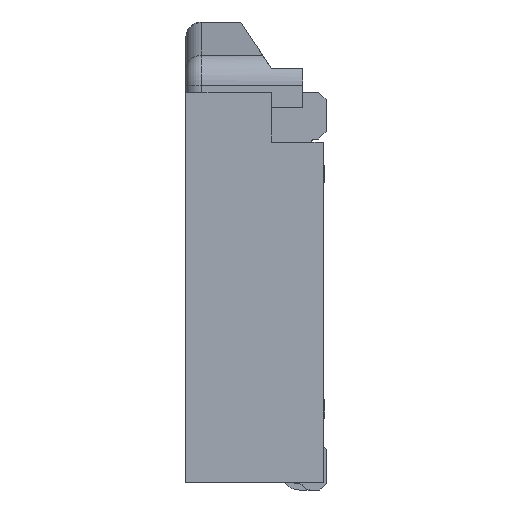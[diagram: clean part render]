
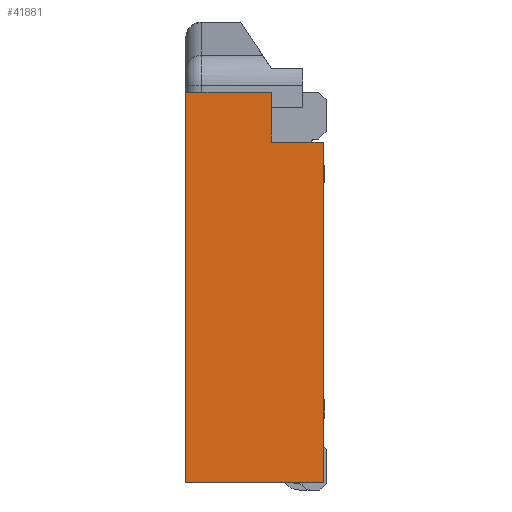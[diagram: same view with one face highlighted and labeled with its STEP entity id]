
A CAD part, left-side view. The second image highlights one B-rep face of the part: STEP entity #41881.
In plain terms, the highlighted planar face has unit normal (-1, 0, 0).
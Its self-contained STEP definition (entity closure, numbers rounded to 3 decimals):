
#1468 = CARTESIAN_POINT ( 'NONE',  ( -2.7, 0.9, 0. ) ) ;
#1469 = LINE ( 'NONE', #1468, #1521 ) ;
#1520 = DIRECTION ( 'NONE',  ( 0., -1., 0. ) ) ;
#1521 = VECTOR ( 'NONE', #1520, 1000. ) ;
#2425 = DIRECTION ( 'NONE',  ( 0., 0., -1. ) ) ;
#2432 = VECTOR ( 'NONE', #2425, 1000. ) ;
#2956 = CARTESIAN_POINT ( 'NONE',  ( -2.7, 0.02, -0.32 ) ) ;
#3373 = FACE_OUTER_BOUND ( 'NONE', #40716, .T. ) ;
#3383 = CARTESIAN_POINT ( 'NONE',  ( -2.7, 0.35, -0.32 ) ) ;
#3407 = LINE ( 'NONE', #3427, #2432 ) ;
#3427 = CARTESIAN_POINT ( 'NONE',  ( -2.7, 0.02, -2.5 ) ) ;
#3435 = DIRECTION ( 'NONE',  ( 0., 0., 1. ) ) ;
#3436 = DIRECTION ( 'NONE',  ( 1., 0., 0. ) ) ;
#3437 = CARTESIAN_POINT ( 'NONE',  ( -2.7, 0.9, -2.4 ) ) ;
#3438 = AXIS2_PLACEMENT_3D ( 'NONE', #3437, #3436, #3435 ) ;
#3439 = PLANE ( 'NONE',  #3438 ) ;
#3486 = CARTESIAN_POINT ( 'NONE',  ( -2.7, 0.35, 0. ) ) ;
#3488 = DIRECTION ( 'NONE',  ( 0., 1., 0. ) ) ;
#3489 = VECTOR ( 'NONE', #3488, 1000. ) ;
#3490 = CARTESIAN_POINT ( 'NONE',  ( -2.7, 0.02, -0.32 ) ) ;
#3491 = LINE ( 'NONE', #3490, #3489 ) ;
#3525 = DIRECTION ( 'NONE',  ( 0., 0., 1. ) ) ;
#3526 = VECTOR ( 'NONE', #3525, 1000. ) ;
#3527 = LINE ( 'NONE', #3486, #3526 ) ;
#3553 = DIRECTION ( 'NONE',  ( 0., 0., 1. ) ) ;
#3554 = VECTOR ( 'NONE', #3553, 1000. ) ;
#3555 = CARTESIAN_POINT ( 'NONE',  ( -2.7, 0.9, 0. ) ) ;
#3556 = LINE ( 'NONE', #3555, #3554 ) ;
#3694 = CARTESIAN_POINT ( 'NONE',  ( -2.7, 0.9, 0. ) ) ;
#3707 = CARTESIAN_POINT ( 'NONE',  ( -2.7, 0.35, 0. ) ) ;
#29090 = VERTEX_POINT ( 'NONE', #36435 ) ;
#29093 = VERTEX_POINT ( 'NONE', #36437 ) ;
#29117 = EDGE_CURVE ( 'NONE', #29090, #29093, #36193, .T. ) ;
#36193 = LINE ( 'NONE', #36219, #36218 ) ;
#36217 = DIRECTION ( 'NONE',  ( 0., 1., 0. ) ) ;
#36218 = VECTOR ( 'NONE', #36217, 1000. ) ;
#36219 = CARTESIAN_POINT ( 'NONE',  ( -2.7, 0.02, -2.5 ) ) ;
#36435 = CARTESIAN_POINT ( 'NONE',  ( -2.7, 0.02, -2.5 ) ) ;
#36437 = CARTESIAN_POINT ( 'NONE',  ( -2.7, 0.9, -2.5 ) ) ;
#39323 = EDGE_CURVE ( 'NONE', #42057, #42036, #1469, .T. ) ;
#40716 = EDGE_LOOP ( 'NONE', ( #41877, #41871, #41923, #41916, #41879, #41902 ) ) ;
#41476 = VERTEX_POINT ( 'NONE', #2956 ) ;
#41871 = ORIENTED_EDGE ( 'NONE', *, *, #41943, .F. ) ;
#41874 = VERTEX_POINT ( 'NONE', #3383 ) ;
#41877 = ORIENTED_EDGE ( 'NONE', *, *, #39323, .F. ) ;
#41879 = ORIENTED_EDGE ( 'NONE', *, *, #41918, .T. ) ;
#41881 = ADVANCED_FACE ( 'NONE', ( #3373 ), #3439, .F. ) ;
#41899 = EDGE_CURVE ( 'NONE', #41476, #29090, #3407, .T. ) ;
#41902 = ORIENTED_EDGE ( 'NONE', *, *, #41924, .T. ) ;
#41916 = ORIENTED_EDGE ( 'NONE', *, *, #41899, .F. ) ;
#41918 = EDGE_CURVE ( 'NONE', #41476, #41874, #3491, .T. ) ;
#41923 = ORIENTED_EDGE ( 'NONE', *, *, #29117, .F. ) ;
#41924 = EDGE_CURVE ( 'NONE', #41874, #42036, #3527, .T. ) ;
#41943 = EDGE_CURVE ( 'NONE', #29093, #42057, #3556, .T. ) ;
#42036 = VERTEX_POINT ( 'NONE', #3707 ) ;
#42057 = VERTEX_POINT ( 'NONE', #3694 ) ;
